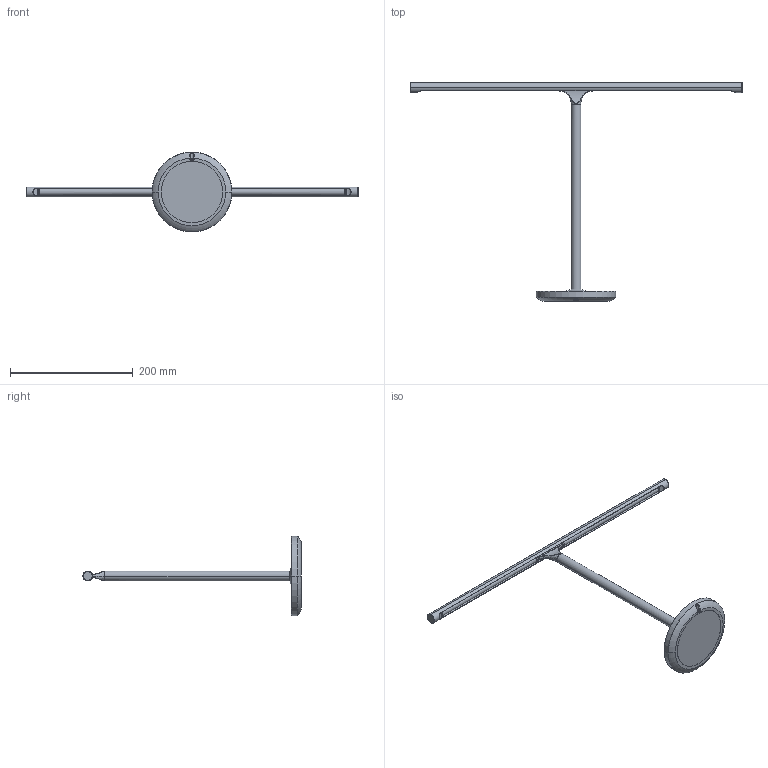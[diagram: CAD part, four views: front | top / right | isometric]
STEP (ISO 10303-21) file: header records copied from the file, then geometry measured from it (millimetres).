
FILE_DESCRIPTION (( 'STEP AP203' ), '1' );
FILE_NAME ('Gallery - 540 Bankers Lamp.STEP', '2024-03-25T02:55:07', ( '' ), ( '' ), 'SwSTEP 2.0', 'SolidWorks 2017', '' );
FILE_SCHEMA (( 'CONFIG_CONTROL_DESIGN' ));
Length unit declared in the file: millimetre
Products named in the file (1): Gallery - 540 Bankers Lamp
Bounding box: 540 x 355.5 x 130 mm (x, y, z)
Volume: 355946.7 mm3; surface area: 95413 mm2
Topology: 3 solids, 3 shells, 220 faces, 547 edges, 336 vertices
Faces by surface type: plane 83, cylinder 69, bspline 37, torus 26, sphere 3, cone 2
Entity records: 8802 total; most frequent: CARTESIAN_POINT 3750, ORIENTED_EDGE 1082, DIRECTION 990, EDGE_CURVE 541, AXIS2_PLACEMENT_3D 373, VERTEX_POINT 333, VECTOR 244, LINE 244
